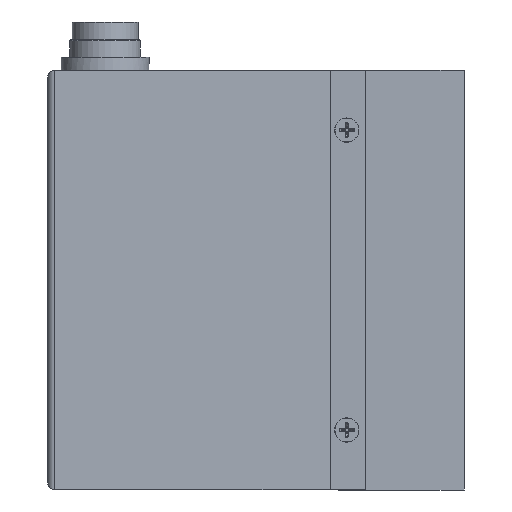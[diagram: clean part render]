
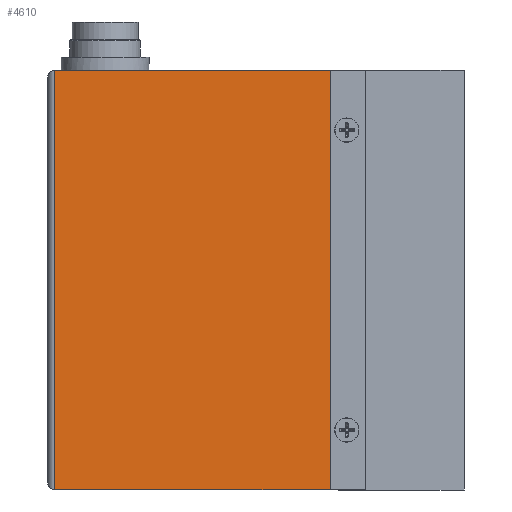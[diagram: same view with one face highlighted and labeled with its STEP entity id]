
A CAD part, left-side view. The second image highlights one B-rep face of the part: STEP entity #4610.
In plain terms, the highlighted planar face has unit normal (-0.999, -0.039, 0).
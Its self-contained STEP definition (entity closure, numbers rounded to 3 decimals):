
#239=PLANE('',#4931);
#467=FACE_OUTER_BOUND('',#739,.T.);
#739=EDGE_LOOP('',(#3416,#3417,#3418,#3419));
#998=LINE('',#14648,#1349);
#1016=LINE('',#14699,#1367);
#1034=LINE('',#14741,#1385);
#1057=LINE('',#14806,#1408);
#1349=VECTOR('',#5496,95.);
#1367=VECTOR('',#5536,62.489);
#1385=VECTOR('',#5572,62.489);
#1408=VECTOR('',#5643,95.);
#1964=VERTEX_POINT('',#14641);
#1967=VERTEX_POINT('',#14646);
#1989=VERTEX_POINT('',#14697);
#2004=VERTEX_POINT('',#14740);
#2465=EDGE_CURVE('',#1967,#1964,#998,.T.);
#2491=EDGE_CURVE('',#1967,#1989,#1016,.T.);
#2514=EDGE_CURVE('',#2004,#1964,#1034,.T.);
#2548=EDGE_CURVE('',#2004,#1989,#1057,.T.);
#3416=ORIENTED_EDGE('',*,*,#2548,.F.);
#3417=ORIENTED_EDGE('',*,*,#2514,.T.);
#3418=ORIENTED_EDGE('',*,*,#2465,.F.);
#3419=ORIENTED_EDGE('',*,*,#2491,.T.);
#4610=ADVANCED_FACE('',(#467),#239,.T.);
#4931=AXIS2_PLACEMENT_3D('',#14816,#5657,#5658);
#5496=DIRECTION('',(0.,0.,-1.));
#5536=DIRECTION('',(-0.039,0.999,0.));
#5572=DIRECTION('',(0.039,-0.999,0.));
#5643=DIRECTION('',(0.,0.,1.));
#5657=DIRECTION('center_axis',(-0.999,-0.039,0.));
#5658=DIRECTION('ref_axis',(0.,0.,1.));
#14641=CARTESIAN_POINT('',(43.093,17.306,-58.089));
#14646=CARTESIAN_POINT('',(43.093,17.306,36.911));
#14648=CARTESIAN_POINT('',(43.093,17.306,36.911));
#14697=CARTESIAN_POINT('',(40.654,79.747,36.911));
#14699=CARTESIAN_POINT('',(43.093,17.306,36.911));
#14740=CARTESIAN_POINT('',(40.654,79.747,-58.089));
#14741=CARTESIAN_POINT('',(43.093,17.306,-58.089));
#14806=CARTESIAN_POINT('',(40.654,79.747,36.911));
#14816=CARTESIAN_POINT('Origin',(40.593,81.306,36.911));
